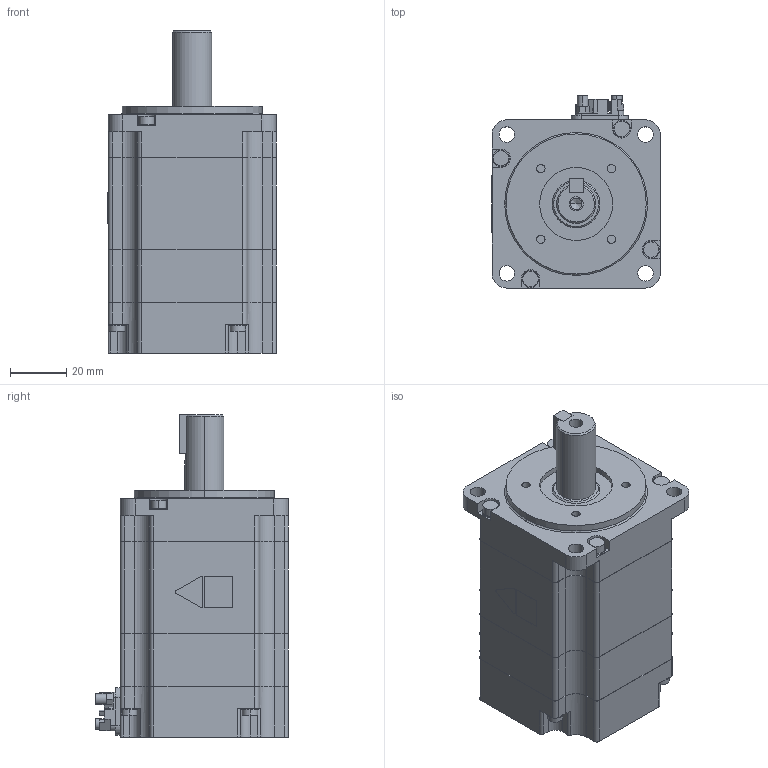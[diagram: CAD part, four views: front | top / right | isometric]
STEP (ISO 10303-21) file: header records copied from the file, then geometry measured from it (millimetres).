
FILE_DESCRIPTION( (''), '2;1');
FILE_NAME ('sgmxj_04aua61a_.stp','2023-08-25T12:06:57',(''),(''),'spGate 15.6.6','','');
FILE_SCHEMA (('AUTOMOTIVE_DESIGN'));
Length unit declared in the file: millimetre
Products named in the file (3): Assembly; sgmxj_04aua61a_-prt0; sgmxj_04aua61a_-prt1
Assembly tree (2 placements, depth 2):
  Assembly
    sgmxj_04aua61a_-prt0
    sgmxj_04aua61a_-prt1
Bounding box: 60.1 x 68.8 x 115.1 mm (x, y, z)
Volume: 280108.9 mm3; surface area: 32069.2 mm2
Topology: 2 solids, 2 shells, 446 faces, 1178 edges, 783 vertices
Faces by surface type: plane 257, cylinder 182, bspline 7
Entity records: 23336 total; most frequent: CARTESIAN_POINT 2625, DIRECTION 2360, ORIENTED_EDGE 2352, COLOUR_RGB 1624, PRESENTATION_STYLE_ASSIGNMENT 1624, STYLED_ITEM 1624, EDGE_CURVE 1176, DRAUGHTING_PRE_DEFINED_CURVE_FONT 1176
